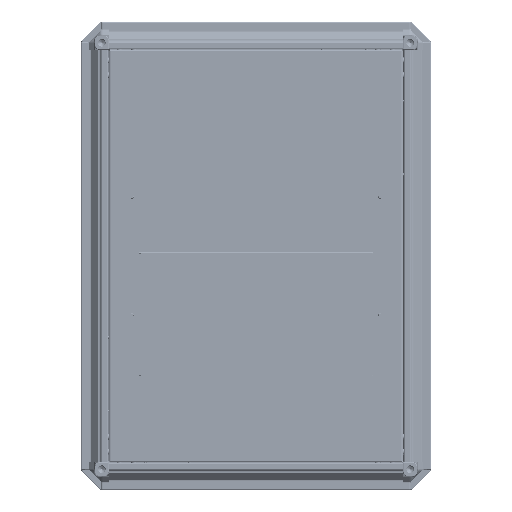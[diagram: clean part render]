
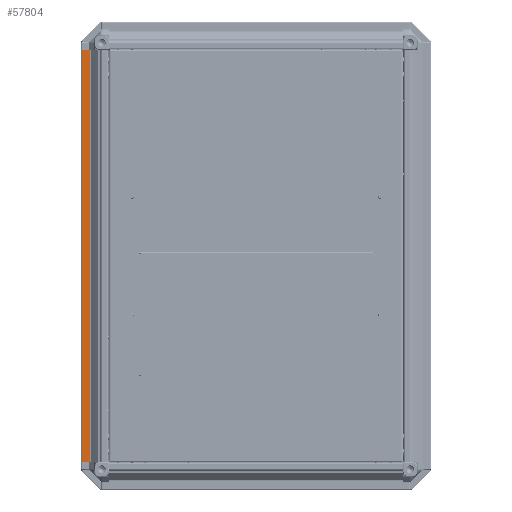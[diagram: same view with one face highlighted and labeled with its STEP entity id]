
A CAD part, front view. The second image highlights one B-rep face of the part: STEP entity #57804.
In plain terms, the highlighted planar face has unit normal (0, -1, 0) as drawn and (0.707, -0.707, 0) by its records, which use the part's own axes.
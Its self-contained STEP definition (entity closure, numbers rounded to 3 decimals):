
#959 = CARTESIAN_POINT ( 'NONE',  ( -12.747, 1.707, 698. ) ) ;
#3264 = DIRECTION ( 'NONE',  ( 0., 0., -1. ) ) ;
#4239 = CARTESIAN_POINT ( 'NONE',  ( -22.386, -7.932, 698. ) ) ;
#7579 = ORIENTED_EDGE ( 'NONE', *, *, #39554, .T. ) ;
#11493 = CARTESIAN_POINT ( 'NONE',  ( -12.747, 1.707, 0. ) ) ;
#11595 = LINE ( 'NONE', #37910, #18183 ) ;
#13119 = LINE ( 'NONE', #4239, #59488 ) ;
#13703 = DIRECTION ( 'NONE',  ( -0.707, 0.707, 0. ) ) ;
#14599 = VERTEX_POINT ( 'NONE', #29832 ) ;
#15278 = VERTEX_POINT ( 'NONE', #17400 ) ;
#15397 = ORIENTED_EDGE ( 'NONE', *, *, #64624, .F. ) ;
#15654 = AXIS2_PLACEMENT_3D ( 'NONE', #63711, #13703, #29462 ) ;
#16736 = LINE ( 'NONE', #36816, #39000 ) ;
#17400 = CARTESIAN_POINT ( 'NONE',  ( -22.386, -7.932, 698. ) ) ;
#18183 = VECTOR ( 'NONE', #62895, 1000. ) ;
#23133 = ORIENTED_EDGE ( 'NONE', *, *, #42620, .T. ) ;
#25558 = VECTOR ( 'NONE', #58436, 1000. ) ;
#27182 = CARTESIAN_POINT ( 'NONE',  ( -22.386, -7.932, 0. ) ) ;
#29462 = DIRECTION ( 'NONE',  ( -0.707, -0.707, 0. ) ) ;
#29832 = CARTESIAN_POINT ( 'NONE',  ( -22.386, -7.932, 0. ) ) ;
#32714 = EDGE_CURVE ( 'NONE', #60572, #52019, #16736, .T. ) ;
#34951 = ORIENTED_EDGE ( 'NONE', *, *, #32714, .F. ) ;
#36816 = CARTESIAN_POINT ( 'NONE',  ( -12.747, 1.707, 698. ) ) ;
#37910 = CARTESIAN_POINT ( 'NONE',  ( -22.386, -7.932, 698. ) ) ;
#39000 = VECTOR ( 'NONE', #56889, 1000. ) ;
#39554 = EDGE_CURVE ( 'NONE', #14599, #52019, #52535, .T. ) ;
#42620 = EDGE_CURVE ( 'NONE', #15278, #14599, #13119, .T. ) ;
#52019 = VERTEX_POINT ( 'NONE', #11493 ) ;
#52535 = LINE ( 'NONE', #27182, #25558 ) ;
#53844 = FACE_OUTER_BOUND ( 'NONE', #62622, .T. ) ;
#56889 = DIRECTION ( 'NONE',  ( 0., 0., -1. ) ) ;
#57804 = ADVANCED_FACE ( 'NONE', ( #53844 ), #58807, .F. ) ;
#58436 = DIRECTION ( 'NONE',  ( 0.707, 0.707, 0. ) ) ;
#58807 = PLANE ( 'NONE',  #15654 ) ;
#59488 = VECTOR ( 'NONE', #3264, 1000. ) ;
#60572 = VERTEX_POINT ( 'NONE', #959 ) ;
#62622 = EDGE_LOOP ( 'NONE', ( #7579, #34951, #15397, #23133 ) ) ;
#62895 = DIRECTION ( 'NONE',  ( 0.707, 0.707, 0. ) ) ;
#63711 = CARTESIAN_POINT ( 'NONE',  ( -22.386, -7.932, 698. ) ) ;
#64624 = EDGE_CURVE ( 'NONE', #15278, #60572, #11595, .T. ) ;
